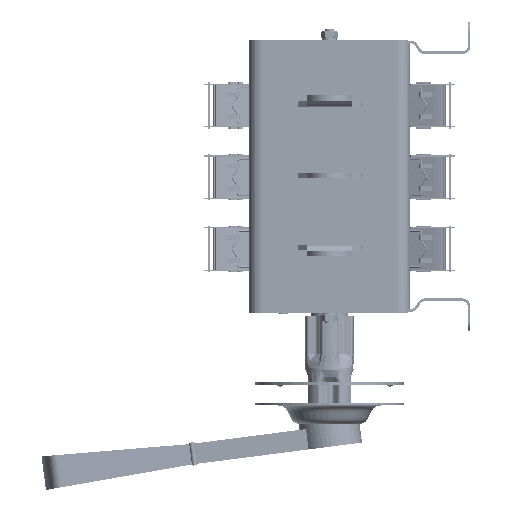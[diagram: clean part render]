
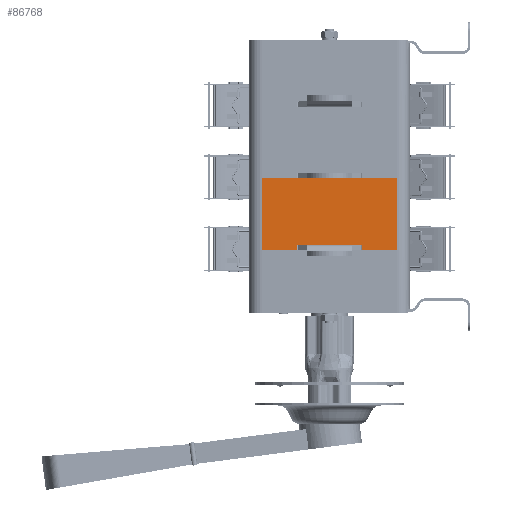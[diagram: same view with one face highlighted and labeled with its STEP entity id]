
A CAD part, front view. The second image highlights one B-rep face of the part: STEP entity #86768.
In plain terms, the highlighted planar face has unit normal (0, -1, 0).
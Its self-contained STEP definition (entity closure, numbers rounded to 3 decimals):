
#491 = DIRECTION ( 'NONE',  ( 0., 0., -1. ) ) ;
#1152 = DIRECTION ( 'NONE',  ( 1., 0., 0. ) ) ;
#1197 = AXIS2_PLACEMENT_3D ( 'NONE', #123356, #133980, #81310 ) ;
#6214 = FACE_OUTER_BOUND ( 'NONE', #62666, .T. ) ;
#8129 = ORIENTED_EDGE ( 'NONE', *, *, #40844, .F. ) ;
#9398 = VECTOR ( 'NONE', #83291, 1000. ) ;
#10543 = LINE ( 'NONE', #30520, #63537 ) ;
#12423 = DIRECTION ( 'NONE',  ( -1., 0., 0. ) ) ;
#12536 = ORIENTED_EDGE ( 'NONE', *, *, #87824, .F. ) ;
#14269 = ORIENTED_EDGE ( 'NONE', *, *, #50360, .F. ) ;
#23813 = CARTESIAN_POINT ( 'NONE',  ( -38., -44., 23.2 ) ) ;
#29207 = ORIENTED_EDGE ( 'NONE', *, *, #69185, .T. ) ;
#29428 = PLANE ( 'NONE',  #1197 ) ;
#29946 = LINE ( 'NONE', #78686, #48143 ) ;
#30520 = CARTESIAN_POINT ( 'NONE',  ( 18.15, -44., 23.2 ) ) ;
#35119 = VERTEX_POINT ( 'NONE', #57131 ) ;
#37396 = CARTESIAN_POINT ( 'NONE',  ( 38., -44., 23.2 ) ) ;
#40844 = EDGE_CURVE ( 'NONE', #108262, #70067, #85274, .T. ) ;
#40923 = CARTESIAN_POINT ( 'NONE',  ( 38., -44., 23.2 ) ) ;
#45705 = VERTEX_POINT ( 'NONE', #37396 ) ;
#46038 = VECTOR ( 'NONE', #12423, 1000. ) ;
#47626 = ORIENTED_EDGE ( 'NONE', *, *, #84447, .F. ) ;
#48143 = VECTOR ( 'NONE', #48146, 1000. ) ;
#48146 = DIRECTION ( 'NONE',  ( 0., 0., -1. ) ) ;
#48158 = LINE ( 'NONE', #81774, #81251 ) ;
#49224 = DIRECTION ( 'NONE',  ( 0., 0., -1. ) ) ;
#50360 = EDGE_CURVE ( 'NONE', #70067, #58784, #29946, .T. ) ;
#57131 = CARTESIAN_POINT ( 'NONE',  ( 18.15, -44., 20.2 ) ) ;
#58308 = CARTESIAN_POINT ( 'NONE',  ( -38., -44., -17. ) ) ;
#58722 = VERTEX_POINT ( 'NONE', #96051 ) ;
#58784 = VERTEX_POINT ( 'NONE', #96954 ) ;
#60034 = CARTESIAN_POINT ( 'NONE',  ( -18.15, -44., 23.2 ) ) ;
#62666 = EDGE_LOOP ( 'NONE', ( #110095, #47626, #12536, #118005, #29207, #90289, #14269, #8129 ) ) ;
#63537 = VECTOR ( 'NONE', #491, 1000. ) ;
#69185 = EDGE_CURVE ( 'NONE', #58722, #35119, #10543, .T. ) ;
#70067 = VERTEX_POINT ( 'NONE', #60034 ) ;
#72090 = VECTOR ( 'NONE', #49224, 1000. ) ;
#78686 = CARTESIAN_POINT ( 'NONE',  ( -18.15, -44., 23.2 ) ) ;
#81169 = CARTESIAN_POINT ( 'NONE',  ( -38., -44., 3. ) ) ;
#81251 = VECTOR ( 'NONE', #122908, 1000. ) ;
#81310 = DIRECTION ( 'NONE',  ( 0., 0., 1. ) ) ;
#81774 = CARTESIAN_POINT ( 'NONE',  ( -38., -44., 20.2 ) ) ;
#81922 = CARTESIAN_POINT ( 'NONE',  ( 38., -44., 3. ) ) ;
#83291 = DIRECTION ( 'NONE',  ( 0., 0., -1. ) ) ;
#84447 = EDGE_CURVE ( 'NONE', #122460, #108901, #123849, .T. ) ;
#85274 = LINE ( 'NONE', #104320, #101862 ) ;
#86768 = ADVANCED_FACE ( 'NONE', ( #6214 ), #29428, .F. ) ;
#87824 = EDGE_CURVE ( 'NONE', #45705, #122460, #102235, .T. ) ;
#90289 = ORIENTED_EDGE ( 'NONE', *, *, #100691, .F. ) ;
#93663 = DIRECTION ( 'NONE',  ( 1., 0., 0. ) ) ;
#96051 = CARTESIAN_POINT ( 'NONE',  ( 18.15, -44., 23.2 ) ) ;
#96954 = CARTESIAN_POINT ( 'NONE',  ( -18.15, -44., 20.2 ) ) ;
#100691 = EDGE_CURVE ( 'NONE', #58784, #35119, #48158, .T. ) ;
#101862 = VECTOR ( 'NONE', #93663, 1000. ) ;
#102235 = LINE ( 'NONE', #81922, #9398 ) ;
#104320 = CARTESIAN_POINT ( 'NONE',  ( -38., -44., 23.2 ) ) ;
#108097 = VECTOR ( 'NONE', #1152, 1000. ) ;
#108262 = VERTEX_POINT ( 'NONE', #23813 ) ;
#108434 = CARTESIAN_POINT ( 'NONE',  ( 38., -44., -17. ) ) ;
#108901 = VERTEX_POINT ( 'NONE', #58308 ) ;
#110095 = ORIENTED_EDGE ( 'NONE', *, *, #118714, .T. ) ;
#118005 = ORIENTED_EDGE ( 'NONE', *, *, #122103, .F. ) ;
#118714 = EDGE_CURVE ( 'NONE', #108262, #108901, #126741, .T. ) ;
#122103 = EDGE_CURVE ( 'NONE', #58722, #45705, #136162, .T. ) ;
#122460 = VERTEX_POINT ( 'NONE', #108434 ) ;
#122908 = DIRECTION ( 'NONE',  ( 1., 0., 0. ) ) ;
#123356 = CARTESIAN_POINT ( 'NONE',  ( -38., -44., 3. ) ) ;
#123849 = LINE ( 'NONE', #129416, #46038 ) ;
#126741 = LINE ( 'NONE', #81169, #72090 ) ;
#129416 = CARTESIAN_POINT ( 'NONE',  ( -38., -44., -17. ) ) ;
#133980 = DIRECTION ( 'NONE',  ( 0., 1., 0. ) ) ;
#136162 = LINE ( 'NONE', #40923, #108097 ) ;
